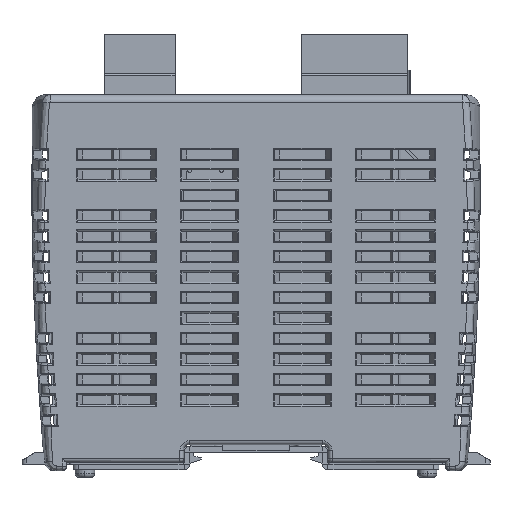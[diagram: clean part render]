
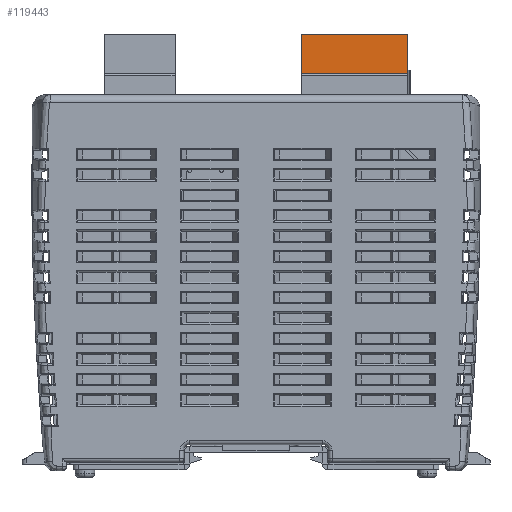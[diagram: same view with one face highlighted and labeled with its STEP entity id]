
A CAD part, left-side view. The second image highlights one B-rep face of the part: STEP entity #119443.
In plain terms, the highlighted planar face has unit normal (-1, 0, 0) as drawn and (0, 1, 0) by its records, which use the part's own axes.
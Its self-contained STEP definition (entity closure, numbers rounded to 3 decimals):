
#113922=DIRECTION('',(0.,0.,-1.));
#113923=VECTOR('',#113922,10.5);
#113924=CARTESIAN_POINT('',(-13.988,4.05,13.25));
#113925=LINE('',#113924,#113923);
#115162=DIRECTION('',(-1.,0.,0.));
#115163=VECTOR('',#115162,28.575);
#115164=CARTESIAN_POINT('',(14.587,4.05,
2.75));
#115165=LINE('',#115164,#115163);
#115169=DIRECTION('',(0.,0.,-1.));
#115170=VECTOR('',#115169,10.5);
#115171=CARTESIAN_POINT('',(14.587,4.05,13.25));
#115172=LINE('',#115171,#115170);
#115176=DIRECTION('',(1.,0.,0.));
#115177=VECTOR('',#115176,28.575);
#115178=CARTESIAN_POINT('',(-13.988,4.05,13.25));
#115179=LINE('',#115178,#115177);
#117646=CARTESIAN_POINT('',(14.587,4.05,
2.75));
#117647=VERTEX_POINT('',#117646);
#117648=CARTESIAN_POINT('',(14.587,4.05,13.25));
#117649=VERTEX_POINT('',#117648);
#117876=CARTESIAN_POINT('',(-13.988,4.05,13.25));
#117877=VERTEX_POINT('',#117876);
#117890=CARTESIAN_POINT('',(-13.988,4.05,
2.75));
#117891=VERTEX_POINT('',#117890);
#119432=CARTESIAN_POINT('',(0.3,4.05,8.));
#119433=DIRECTION('',(0.,1.,0.));
#119434=DIRECTION('',(0.,0.,1.));
#119435=AXIS2_PLACEMENT_3D('',#119432,#119433,#119434);
#119436=PLANE('',#119435);
#119437=ORIENTED_EDGE('',*,*,#119426,.F.);
#119438=ORIENTED_EDGE('',*,*,#118297,.F.);
#119439=ORIENTED_EDGE('',*,*,#118199,.F.);
#119440=ORIENTED_EDGE('',*,*,#118388,.T.);
#119441=EDGE_LOOP('',(#119437,#119438,#119439,#119440));
#119442=FACE_OUTER_BOUND('',#119441,.F.);
#118199=EDGE_CURVE('',#117877,#117649,#115179,.T.);
#118297=EDGE_CURVE('',#117649,#117647,#115172,.T.);
#118388=EDGE_CURVE('',#117877,#117891,#113925,.T.);
#119426=EDGE_CURVE('',#117647,#117891,#115165,.T.);
#119443=ADVANCED_FACE('',(#119442),#119436,.T.);
